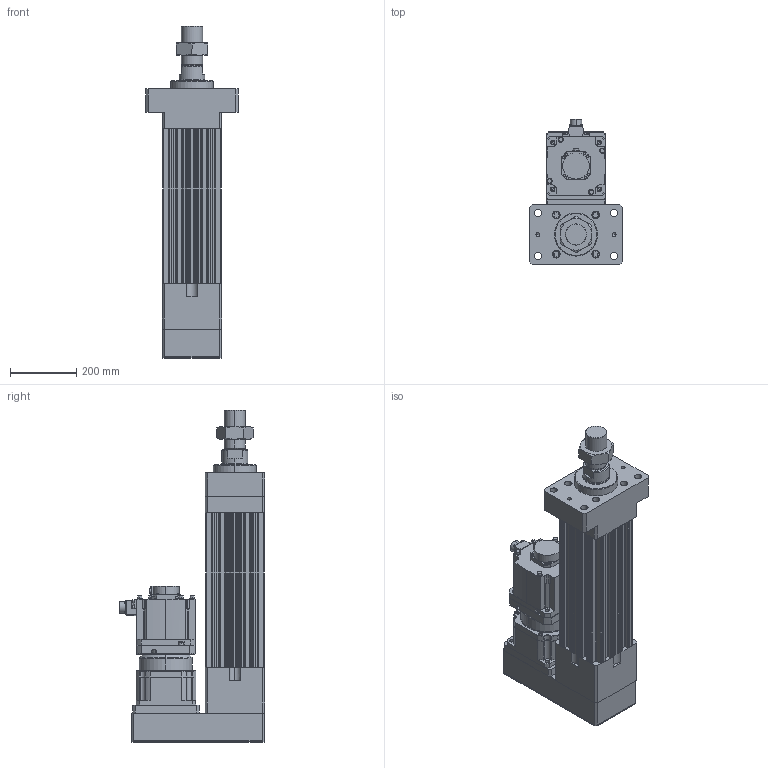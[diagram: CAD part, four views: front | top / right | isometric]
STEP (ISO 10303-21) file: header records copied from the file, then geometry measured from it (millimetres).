
FILE_DESCRIPTION (( 'STEP AP203' ), '1' );
FILE_NAME ('HES180HS-P150-W050G00-M-FMA.STEP', '2023-02-01T07:51:48', ( 'tms' ), ( '' ), 'SwSTEP 2.0', 'SolidWorks 2013', '' );
FILE_SCHEMA (( 'CONFIG_CONTROL_DESIGN' ));
Length unit declared in the file: millimetre
Products named in the file (9): AB180-003[HG-SR702B]; HES180HS-P150-W050G00-M-FMA; P1301600001; HES180-P150-G180-FMA; HG-SR502; HES180 ROD M ST150; AB1801; P0403600401; M64X2.0P
Assembly tree (8 placements, depth 3):
  HES180HS-P150-W050G00-M-FMA
    HES180-P150-G180-FMA
    HES180 ROD M ST150
    M64X2.0P
    AB180-003[HG-SR702B]
      AB1801
      P1301600001
      P0403600401
    HG-SR502
Bounding box: 280 x 438.85 x 1002 mm (x, y, z)
Volume: 25408797.8 mm3; surface area: 2053497 mm2
Topology: 4 solids, 19 shells, 1431 faces, 3715 edges, 2410 vertices
Faces by surface type: cylinder 663, plane 555, cone 146, bspline 63, torus 4
Entity records: 52578 total; most frequent: CARTESIAN_POINT 15982, DIRECTION 7693, ORIENTED_EDGE 7330, EDGE_CURVE 3689, AXIS2_PLACEMENT_3D 2901, VERTEX_POINT 2410, VECTOR 1891, LINE 1891
